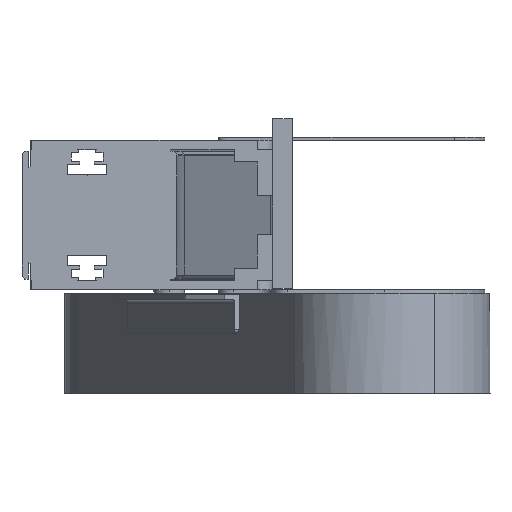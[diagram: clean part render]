
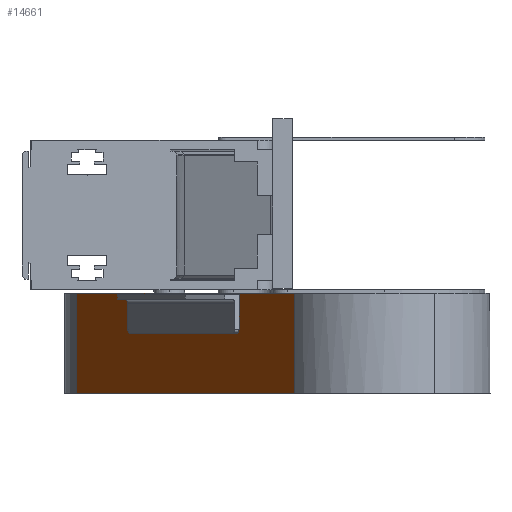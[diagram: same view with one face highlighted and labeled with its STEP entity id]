
A CAD part, left-side view. The second image highlights one B-rep face of the part: STEP entity #14661.
In plain terms, the highlighted planar face has unit normal (-0.469, 0.883, 0).
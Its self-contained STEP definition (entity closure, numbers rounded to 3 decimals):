
#152 = VERTEX_POINT ( 'NONE', #7266 ) ;
#666 = ORIENTED_EDGE ( 'NONE', *, *, #15704, .F. ) ;
#828 = ORIENTED_EDGE ( 'NONE', *, *, #7780, .F. ) ;
#842 = AXIS2_PLACEMENT_3D ( 'NONE', #21045, #10754, #23066 ) ;
#916 = VERTEX_POINT ( 'NONE', #26048 ) ;
#1158 = LINE ( 'NONE', #2712, #23756 ) ;
#1345 = CIRCLE ( 'NONE', #3186, 2.5 ) ;
#1419 = ORIENTED_EDGE ( 'NONE', *, *, #14289, .T. ) ;
#1772 = VERTEX_POINT ( 'NONE', #16063 ) ;
#1920 = DIRECTION ( 'NONE',  ( 0., 0., 1. ) ) ;
#2154 = EDGE_LOOP ( 'NONE', ( #1419, #6299, #666, #828, #18354 ) ) ;
#2484 = FACE_OUTER_BOUND ( 'NONE', #2154, .T. ) ;
#2712 = CARTESIAN_POINT ( 'NONE',  ( 33.522, -134.199, -115.5 ) ) ;
#3186 = AXIS2_PLACEMENT_3D ( 'NONE', #21944, #23966, #3554 ) ;
#3554 = DIRECTION ( 'NONE',  ( -0.883, -0.469, 0. ) ) ;
#3981 = CARTESIAN_POINT ( 'NONE',  ( 100.626, -98.52, -54.5 ) ) ;
#4118 = CARTESIAN_POINT ( 'NONE',  ( 63.017, -118.517, -51.5 ) ) ;
#4274 = VERTEX_POINT ( 'NONE', #4916 ) ;
#4372 = CARTESIAN_POINT ( 'NONE',  ( 33.522, -134.199, -50.5 ) ) ;
#4620 = VERTEX_POINT ( 'NONE', #5647 ) ;
#4865 = EDGE_CURVE ( 'NONE', #1772, #15385, #20741, .T. ) ;
#4916 = CARTESIAN_POINT ( 'NONE',  ( 100.626, -98.52, -51.5 ) ) ;
#5125 = CARTESIAN_POINT ( 'NONE',  ( 126.046, -85.004, -50.5 ) ) ;
#5647 = CARTESIAN_POINT ( 'NONE',  ( 229.095, -30.212, -76.5 ) ) ;
#5979 = VECTOR ( 'NONE', #26170, 1000. ) ;
#6299 = ORIENTED_EDGE ( 'NONE', *, *, #23498, .T. ) ;
#6491 = VECTOR ( 'NONE', #21128, 1000. ) ;
#6619 = ORIENTED_EDGE ( 'NONE', *, *, #9312, .F. ) ;
#6872 = CARTESIAN_POINT ( 'NONE',  ( 33.522, -134.199, -115.5 ) ) ;
#7266 = CARTESIAN_POINT ( 'NONE',  ( 33.522, -134.199, -115.5 ) ) ;
#7366 = DIRECTION ( 'NONE',  ( 0.883, 0.469, 0. ) ) ;
#7780 = EDGE_CURVE ( 'NONE', #152, #20476, #1158, .T. ) ;
#8081 = LINE ( 'NONE', #17142, #6491 ) ;
#8733 = DIRECTION ( 'NONE',  ( 0.469, -0.883, 0. ) ) ;
#9203 = EDGE_CURVE ( 'NONE', #4620, #916, #1345, .T. ) ;
#9264 = VECTOR ( 'NONE', #24381, 1000. ) ;
#9312 = EDGE_CURVE ( 'NONE', #1772, #4274, #20118, .T. ) ;
#9804 = AXIS2_PLACEMENT_3D ( 'NONE', #10807, #8733, #14786 ) ;
#9811 = ORIENTED_EDGE ( 'NONE', *, *, #23285, .F. ) ;
#9830 = LINE ( 'NONE', #19745, #5979 ) ;
#9862 = VECTOR ( 'NONE', #20905, 1000. ) ;
#10754 = DIRECTION ( 'NONE',  ( 0.469, -0.883, 0. ) ) ;
#10807 = CARTESIAN_POINT ( 'NONE',  ( 102.834, -97.346, -74. ) ) ;
#10826 = LINE ( 'NONE', #23804, #13063 ) ;
#11706 = CARTESIAN_POINT ( 'NONE',  ( 231.303, -29.038, -54.5 ) ) ;
#11738 = VERTEX_POINT ( 'NONE', #12285 ) ;
#12285 = CARTESIAN_POINT ( 'NONE',  ( 231.303, -29.038, -51.5 ) ) ;
#12728 = PLANE ( 'NONE',  #842 ) ;
#13063 = VECTOR ( 'NONE', #7366, 1000. ) ;
#13072 = DIRECTION ( 'NONE',  ( 0.883, 0.469, 0. ) ) ;
#13669 = LINE ( 'NONE', #6872, #16815 ) ;
#14065 = DIRECTION ( 'NONE',  ( 0., 0., 1. ) ) ;
#14289 = EDGE_CURVE ( 'NONE', #20160, #21425, #10826, .T. ) ;
#14661 = ADVANCED_FACE ( 'NONE', ( #2484, #24742 ), #12728, .F. ) ;
#14786 = DIRECTION ( 'NONE',  ( -0.883, -0.469, 0. ) ) ;
#14812 = DIRECTION ( 'NONE',  ( 0., 0., 1. ) ) ;
#15022 = VECTOR ( 'NONE', #14065, 1000. ) ;
#15192 = CARTESIAN_POINT ( 'NONE',  ( 298.407, 6.642, -115.5 ) ) ;
#15385 = VERTEX_POINT ( 'NONE', #19827 ) ;
#15704 = EDGE_CURVE ( 'NONE', #20476, #19134, #8081, .T. ) ;
#16063 = CARTESIAN_POINT ( 'NONE',  ( 100.626, -98.52, -74. ) ) ;
#16184 = ORIENTED_EDGE ( 'NONE', *, *, #17862, .T. ) ;
#16392 = EDGE_CURVE ( 'NONE', #11738, #4274, #17900, .T. ) ;
#16815 = VECTOR ( 'NONE', #14812, 1000. ) ;
#17142 = CARTESIAN_POINT ( 'NONE',  ( 298.407, 6.642, -115.5 ) ) ;
#17682 = ORIENTED_EDGE ( 'NONE', *, *, #9203, .T. ) ;
#17862 = EDGE_CURVE ( 'NONE', #916, #11738, #18221, .T. ) ;
#17900 = LINE ( 'NONE', #4118, #9264 ) ;
#18221 = LINE ( 'NONE', #11706, #15022 ) ;
#18354 = ORIENTED_EDGE ( 'NONE', *, *, #22728, .T. ) ;
#19134 = VERTEX_POINT ( 'NONE', #24138 ) ;
#19745 = CARTESIAN_POINT ( 'NONE',  ( 33.522, -134.199, -50.5 ) ) ;
#19827 = CARTESIAN_POINT ( 'NONE',  ( 102.834, -97.346, -76.5 ) ) ;
#20118 = LINE ( 'NONE', #3981, #25467 ) ;
#20160 = VERTEX_POINT ( 'NONE', #4372 ) ;
#20476 = VERTEX_POINT ( 'NONE', #15192 ) ;
#20741 = CIRCLE ( 'NONE', #9804, 2.5 ) ;
#20905 = DIRECTION ( 'NONE',  ( -0.883, -0.469, 0. ) ) ;
#21045 = CARTESIAN_POINT ( 'NONE',  ( 33.522, -134.199, -115.5 ) ) ;
#21075 = CARTESIAN_POINT ( 'NONE',  ( 231.303, -29.038, -76.5 ) ) ;
#21128 = DIRECTION ( 'NONE',  ( 0., 0., 1. ) ) ;
#21425 = VERTEX_POINT ( 'NONE', #5125 ) ;
#21944 = CARTESIAN_POINT ( 'NONE',  ( 229.095, -30.212, -74. ) ) ;
#22728 = EDGE_CURVE ( 'NONE', #152, #20160, #13669, .T. ) ;
#23066 = DIRECTION ( 'NONE',  ( 0.883, 0.469, 0. ) ) ;
#23285 = EDGE_CURVE ( 'NONE', #4620, #15385, #24404, .T. ) ;
#23498 = EDGE_CURVE ( 'NONE', #21425, #19134, #9830, .T. ) ;
#23756 = VECTOR ( 'NONE', #13072, 1000. ) ;
#23804 = CARTESIAN_POINT ( 'NONE',  ( 33.522, -134.199, -50.5 ) ) ;
#23966 = DIRECTION ( 'NONE',  ( 0.469, -0.883, 0. ) ) ;
#24138 = CARTESIAN_POINT ( 'NONE',  ( 298.407, 6.642, -50.5 ) ) ;
#24381 = DIRECTION ( 'NONE',  ( -0.883, -0.469, 0. ) ) ;
#24404 = LINE ( 'NONE', #21075, #9862 ) ;
#24733 = ORIENTED_EDGE ( 'NONE', *, *, #16392, .T. ) ;
#24742 = FACE_BOUND ( 'NONE', #26228, .T. ) ;
#25404 = ORIENTED_EDGE ( 'NONE', *, *, #4865, .T. ) ;
#25467 = VECTOR ( 'NONE', #1920, 1000. ) ;
#26048 = CARTESIAN_POINT ( 'NONE',  ( 231.303, -29.038, -74. ) ) ;
#26170 = DIRECTION ( 'NONE',  ( 0.883, 0.469, 0. ) ) ;
#26228 = EDGE_LOOP ( 'NONE', ( #6619, #25404, #9811, #17682, #16184, #24733 ) ) ;
